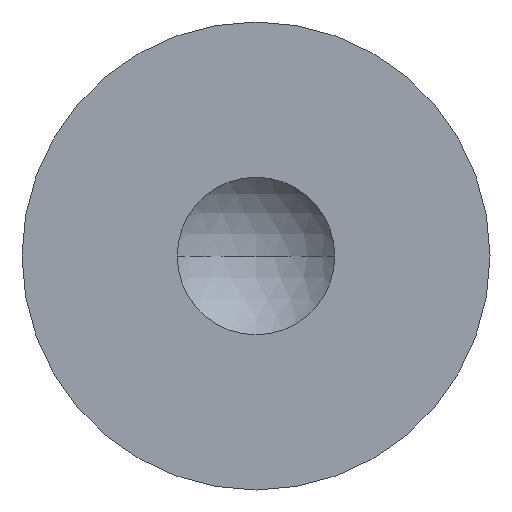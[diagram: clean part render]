
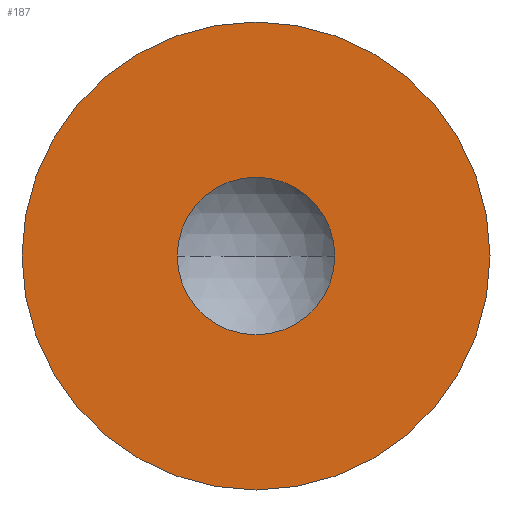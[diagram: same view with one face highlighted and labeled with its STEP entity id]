
A CAD part, front view. The second image highlights one B-rep face of the part: STEP entity #187.
In plain terms, the highlighted planar face has unit normal (0, -1, 0).
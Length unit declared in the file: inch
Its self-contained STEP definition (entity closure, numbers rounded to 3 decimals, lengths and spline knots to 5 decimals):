
#6 = AXIS2_PLACEMENT_3D ( 'NONE', #183, #163, #218 ) ;
#7 = CARTESIAN_POINT ( 'NONE',  ( 0., -0.04, 0.625 ) ) ;
#11 = EDGE_CURVE ( 'NONE', #122, #45, #31, .T. ) ;
#13 = PLANE ( 'NONE',  #129 ) ;
#17 = DIRECTION ( 'NONE',  ( 0., 0., 1. ) ) ;
#28 = DIRECTION ( 'NONE',  ( 0., 0., 1. ) ) ;
#30 = CARTESIAN_POINT ( 'NONE',  ( 0., -0.04, 0. ) ) ;
#31 = CIRCLE ( 'NONE', #134, 0.21049 ) ;
#35 = DIRECTION ( 'NONE',  ( 0., 0., -1. ) ) ;
#45 = VERTEX_POINT ( 'NONE', #213 ) ;
#48 = CIRCLE ( 'NONE', #60, 0.625 ) ;
#49 = FACE_OUTER_BOUND ( 'NONE', #126, .T. ) ;
#54 = CARTESIAN_POINT ( 'NONE',  ( 0., -0.04, 0. ) ) ;
#60 = AXIS2_PLACEMENT_3D ( 'NONE', #54, #189, #17 ) ;
#62 = VERTEX_POINT ( 'NONE', #7 ) ;
#67 = ORIENTED_EDGE ( 'NONE', *, *, #127, .T. ) ;
#83 = ORIENTED_EDGE ( 'NONE', *, *, #130, .F. ) ;
#85 = CARTESIAN_POINT ( 'NONE',  ( 0., -0.04, -0.625 ) ) ;
#97 = CARTESIAN_POINT ( 'NONE',  ( 0., -0.04, 0. ) ) ;
#122 = VERTEX_POINT ( 'NONE', #199 ) ;
#126 = EDGE_LOOP ( 'NONE', ( #166, #83 ) ) ;
#127 = EDGE_CURVE ( 'NONE', #45, #122, #175, .T. ) ;
#129 = AXIS2_PLACEMENT_3D ( 'NONE', #165, #146, #35 ) ;
#130 = EDGE_CURVE ( 'NONE', #154, #62, #193, .T. ) ;
#133 = DIRECTION ( 'NONE',  ( 0., 1., 0. ) ) ;
#134 = AXIS2_PLACEMENT_3D ( 'NONE', #97, #139, #136 ) ;
#136 = DIRECTION ( 'NONE',  ( 0., 0., 1. ) ) ;
#139 = DIRECTION ( 'NONE',  ( 0., 1., 0. ) ) ;
#146 = DIRECTION ( 'NONE',  ( 0., -1., 0. ) ) ;
#154 = VERTEX_POINT ( 'NONE', #85 ) ;
#158 = ORIENTED_EDGE ( 'NONE', *, *, #11, .T. ) ;
#162 = AXIS2_PLACEMENT_3D ( 'NONE', #30, #133, #28 ) ;
#163 = DIRECTION ( 'NONE',  ( 0., 1., 0. ) ) ;
#165 = CARTESIAN_POINT ( 'NONE',  ( -0.625, -0.04, 0. ) ) ;
#166 = ORIENTED_EDGE ( 'NONE', *, *, #228, .F. ) ;
#175 = CIRCLE ( 'NONE', #162, 0.21049 ) ;
#183 = CARTESIAN_POINT ( 'NONE',  ( 0., -0.04, 0. ) ) ;
#187 = ADVANCED_FACE ( 'NONE', ( #234, #49 ), #13, .T. ) ;
#189 = DIRECTION ( 'NONE',  ( 0., 1., 0. ) ) ;
#193 = CIRCLE ( 'NONE', #6, 0.625 ) ;
#199 = CARTESIAN_POINT ( 'NONE',  ( 0.21049, -0.04, 0. ) ) ;
#213 = CARTESIAN_POINT ( 'NONE',  ( -0.21049, -0.04, 0. ) ) ;
#218 = DIRECTION ( 'NONE',  ( 0., 0., 1. ) ) ;
#228 = EDGE_CURVE ( 'NONE', #62, #154, #48, .T. ) ;
#230 = EDGE_LOOP ( 'NONE', ( #67, #158 ) ) ;
#234 = FACE_BOUND ( 'NONE', #230, .T. ) ;
